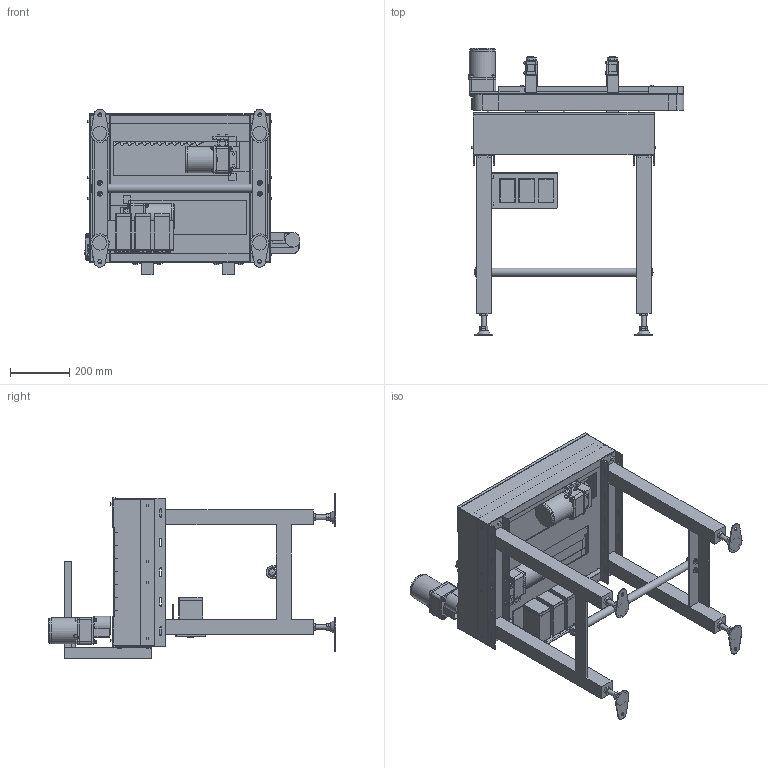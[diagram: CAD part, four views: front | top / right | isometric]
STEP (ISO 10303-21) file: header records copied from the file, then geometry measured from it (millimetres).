
FILE_DESCRIPTION (( 'STEP AP214' ), '1' );
FILE_NAME ('SGA-300-R-C.STEP', '2022-04-12T01:38:56', ( '' ), ( '' ), 'SwSTEP 2.0', 'SolidWorks 2017', '' );
FILE_SCHEMA (( 'AUTOMOTIVE_DESIGN' ));
Length unit declared in the file: millimetre
Products named in the file (18): SWD-SGA-S-端囂啞枌袡紕; SWD-SGA-衛動葀杺_590; SWD-SGA-S-脚_300幅; SWD-SGA-S-原動部; SWD-SGA-S-娃敖腾把_300暆; SWD-U-010 Assy_固定板t6; SGA-300-R-C; SWD-SGA-S-ﾃｰｸｱｯﾌﾟ; SWD-AJ-020(75mm); SWD-SGA-S-原動カバー; SWD-UBM540-403-E2+5GN3-18K; SWD-SGA-S-ｻｲﾄﾞﾍﾞﾔ_300入口側飛出し; SK-34-WH; SWD-SGA-S-徊霓娃詭x帩; SWD-UBM540-403-E2+5GN3-18K_t4; SWD-SGA-S-郯讜擾300暆; SWD-SGA-S-端囂啞; VFD001L21A_WEB図
Assembly tree (27 placements, depth 3):
  SGA-300-R-C
    SWD-SGA-S-娃敖腾把_300暆
    SWD-SGA-S-郯讜擾300暆
    SWD-SGA-S-脚_300幅  x2
    SWD-AJ-020(75mm)  x4
    SWD-U-010 Assy_固定板t6  x2
    SWD-SGA-衛動葀杺_590
    SWD-SGA-S-原動部  x2
      SWD-UBM540-403-E2+5GN3-18K_t4
      SWD-SGA-S-原動カバー
      SWD-SGA-S-ﾃｰｸｱｯﾌﾟ
    SWD-SGA-S-端囂啞
      SWD-SGA-S-端囂啞枌袡紕
      VFD001L21A_WEB図  x3
    SWD-SGA-S-徊霓娃詭x帩  x2
    SK-34-WH  x2
    SWD-SGA-S-ｻｲﾄﾞﾍﾞﾔ_300入口側飛出し
    SWD-UBM540-403-E2+5GN3-18K
Bounding box: 729.23 x 969.4 x 560 mm (x, y, z)
Volume: 20165167.4 mm3; surface area: 4212765.2 mm2
Topology: 81 solids, 82 shells, 2566 faces, 6349 edges, 4101 vertices
Faces by surface type: plane 1759, cylinder 525, cone 161, bspline 64, torus 34, sphere 23
Full cylindrical faces by diameter (mm): 2 x3, 4.5 x6, 5 x14, 5.5 x3, 6 x34, 6.5 x24, 6.6 x12, 7 x4, 8 x10, 8.49 x3, 9 x8, 10 x12, 10.5 x1, 11.5 x2, 12 x3, 12.2 x2, 12.5 x12, 13 x4, 16 x10, 17 x4, 20 x1, 22 x1, 27.2 x1, 28 x2, 36 x3, 40 x4, 50 x2, 83 x3, 84 x3, 86.3 x3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
Entity records: 56567 total; most frequent: CARTESIAN_POINT 10215, ORIENTED_EDGE 7882, DIRECTION 7834, EDGE_CURVE 3941, LINE 2978, VECTOR 2978, VERTEX_POINT 2671, AXIS2_PLACEMENT_3D 2428
